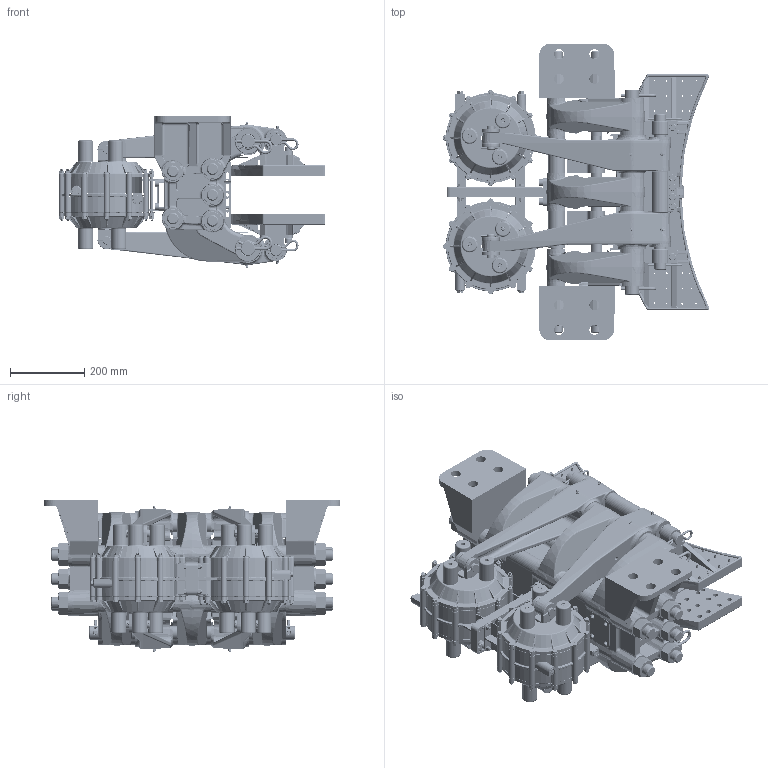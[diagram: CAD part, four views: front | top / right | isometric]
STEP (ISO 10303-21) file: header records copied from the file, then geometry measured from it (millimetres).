
FILE_DESCRIPTION (( 'STEP AP214' ), '1' );
FILE_NAME ('5030-AW.STEP', '2021-10-19T23:11:20', ( '' ), ( '' ), 'SwSTEP 2.0', 'SolidWorks 2021', '' );
FILE_SCHEMA (( 'AUTOMOTIVE_DESIGN' ));
Length unit declared in the file: inch
Products named in the file (1): 5030-AW
Bounding box: 717.35 x 800.26 x 409.74 mm (x, y, z)
Surface area: 4310315 mm2 (no closed solid volume)
Topology: 0 solids, 364 shells, 6785 faces, 22719 edges, 15406 vertices
Faces by surface type: cylinder 2468, plane 1613, bspline 1074, torus 881, cone 721, sphere 28
Entity records: 449400 total; most frequent: CARTESIAN_POINT 178501, DIRECTION 37621, ORIENTED_EDGE 35306, EDGE_CURVE 22652, AXIS2_PLACEMENT_3D 15482, VERTEX_POINT 15406, CIRCLE 9770, EDGE_LOOP 7790
